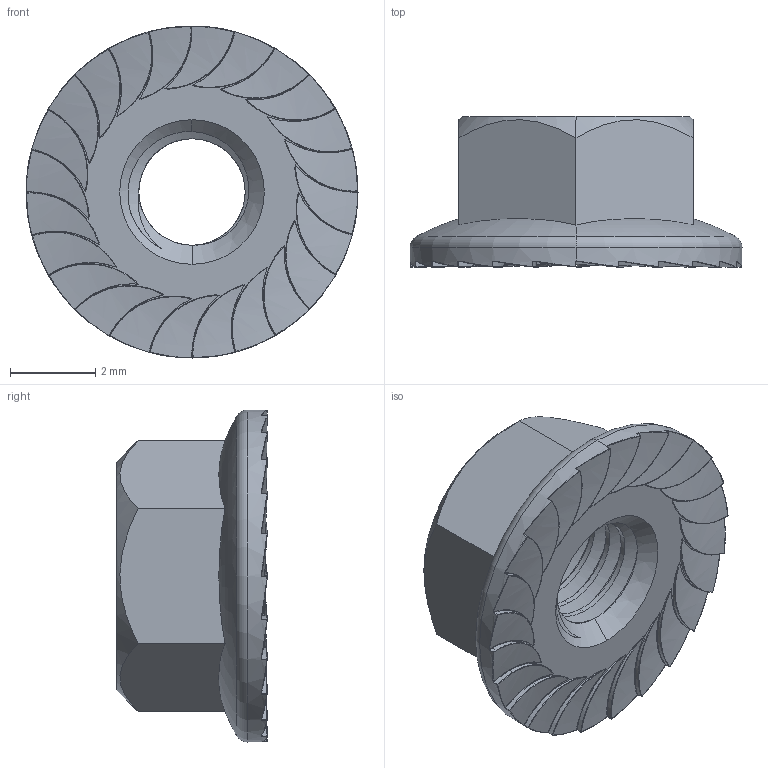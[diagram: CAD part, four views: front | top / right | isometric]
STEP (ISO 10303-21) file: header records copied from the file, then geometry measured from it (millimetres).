
FILE_DESCRIPTION (( 'STEP AP203' ), '1' );
FILE_NAME ('TANLD-304-M3.STEP', '2026-08-25T07:09:44', ( '' ), ( '' ), 'SwSTEP 2.0', 'SolidWorks 2020', '' );
FILE_SCHEMA (( 'CONFIG_CONTROL_DESIGN' ));
Length unit declared in the file: millimetre
Products named in the file (1): TANLD-304-M3
Bounding box: 7.8 x 3.54 x 7.8 mm (x, y, z)
Volume: 84.9 mm3; surface area: 189.7 mm2
Topology: 1 solids, 1 shells, 239 faces, 653 edges, 392 vertices
Faces by surface type: cylinder 98, bspline 75, plane 31, sphere 25, cone 6, torus 4
Entity records: 13665 total; most frequent: CARTESIAN_POINT 8710, ORIENTED_EDGE 1160, DIRECTION 867, EDGE_CURVE 580, AXIS2_PLACEMENT_3D 391, VERTEX_POINT 344, B_SPLINE_CURVE_WITH_KNOTS 254, EDGE_LOOP 240
